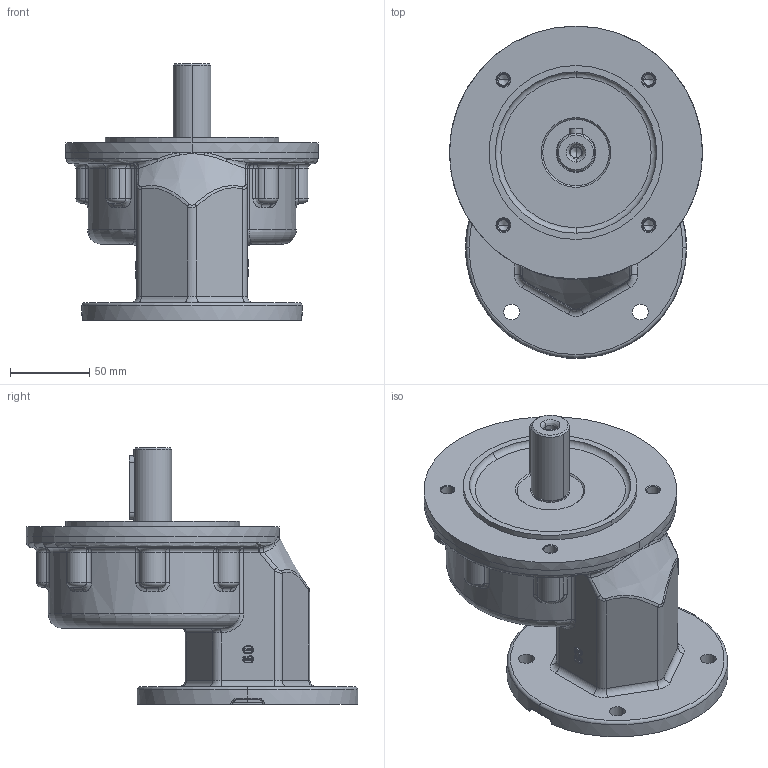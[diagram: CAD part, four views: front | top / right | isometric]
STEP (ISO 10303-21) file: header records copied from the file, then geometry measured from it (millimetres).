
FILE_DESCRIPTION (( 'STEP AP214' ), '1' );
FILE_NAME ('atc60-f115-ap90.STEP', '2010-01-29T07:32:07', ( '' ), ( '' ), 'SwSTEP 2.0', 'SolidWorks 2003240', '' );
FILE_SCHEMA (( 'AUTOMOTIVE_DESIGN' ));
Length unit declared in the file: millimetre
Products named in the file (4): ATC60_ATC60-AP90; D6912_Šroub DIN 6912 - M6x16; pøíruba d55 MRT60a_pøíruba 95-115-140; atc60-f115-ap90
Assembly tree (8 placements, depth 2):
  atc60-f115-ap90
    D6912_Šroub DIN 6912 - M6x16  x6
    ATC60_ATC60-AP90
    pøíruba d55 MRT60a_pøíruba 95-115-140
Bounding box: 160 x 209.76 x 162 mm (x, y, z)
Volume: 1312023.4 mm3; surface area: 139772.8 mm2
Topology: 8 solids, 8 shells, 1018 faces, 2289 edges, 1299 vertices
Faces by surface type: torus 286, cylinder 232, plane 188, cone 176, bspline 118, sphere 18
Entity records: 112901 total; most frequent: CARTESIAN_POINT 93663, DIRECTION 4199, ORIENTED_EDGE 3858, EDGE_CURVE 1929, AXIS2_PLACEMENT_3D 1882, CIRCLE 1156, VERTEX_POINT 1142, EDGE_LOOP 895
